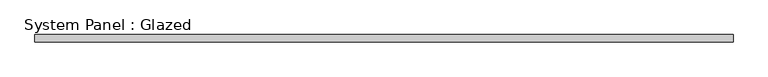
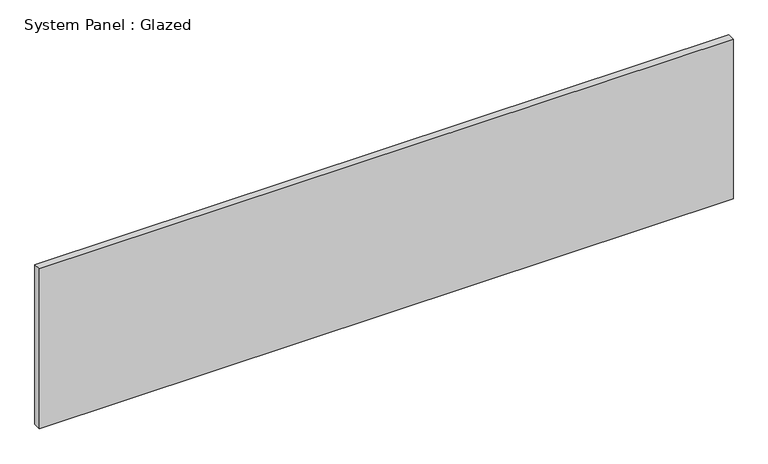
"""IFC4 building model written with IfcOpenShell, lengths in millimetres: plate geometry, System Panel : Glazed."""

from ifc_helpers import new_model, si_unit, origin, origin_with_axes, place, context, project, spatial, polyline, outline, extrude, source, transform, mapped, element, save


def system_panel_glazed_00b21661(model_context):
    return source(origin(), model_context, "Body", "SweptSolid", [
        extrude(outline(polyline([(1187.45, 19.05), (-1187.45, 19.05), (-1187.45, 44.45), (1187.45, 44.45), (1187.45, 19.05)])), origin_with_axes(), (0.0, 0.0, 1.0), 577.85),
    ])


if __name__ == "__main__":
    model = new_model("IFC4")
    model_context = context("Model", 3, world=origin())
    ifc_project = project(units=[si_unit("LENGTHUNIT", "METRE", prefix="MILLI")], contexts=[model_context])
    site = spatial("IfcSite", under=ifc_project)
    building = spatial("IfcBuilding", under=site)
    placement = place(None, origin())
    system_panel_glazed_shape = system_panel_glazed_00b21661(model_context)
    element("IfcPlate", 1, ObjectType="System Panel : Glazed", at=placement, inside=building, context=model_context, shape_type="MappedRepresentation", body=[
        mapped(system_panel_glazed_shape, transform((0.0, 0.0, 0.0), x_axis=(1.0, 0.0, 0.0), y_axis=(0.0, 1.0, 0.0), z_axis=(0.0, 0.0, 1.0))),
    ])
    save(model, "model.ifc")
